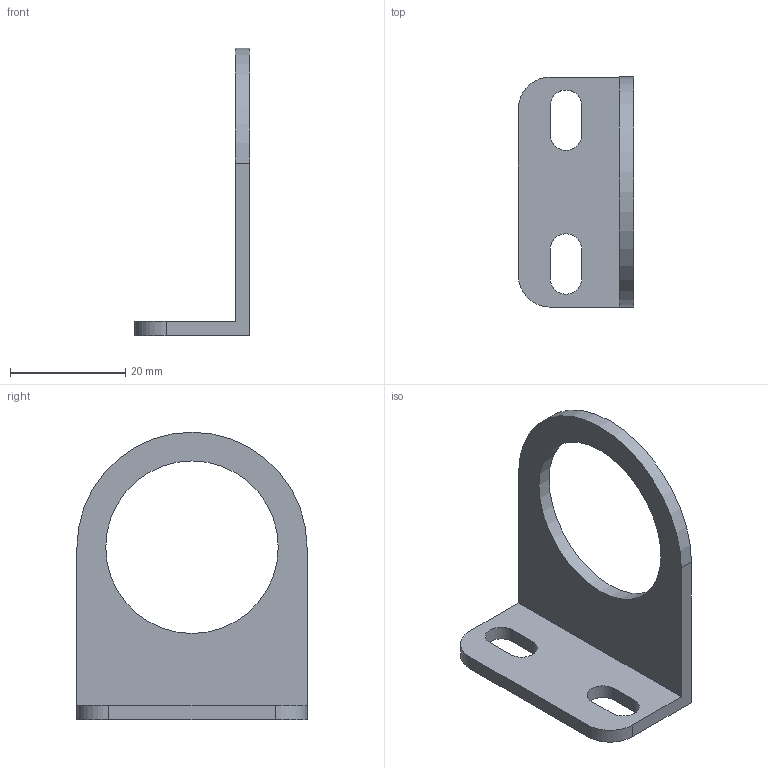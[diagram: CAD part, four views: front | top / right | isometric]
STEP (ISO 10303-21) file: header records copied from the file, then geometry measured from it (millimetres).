
FILE_DESCRIPTION( ( 'STEP AP203' ), '1' );
FILE_NAME( 'p:/temp/worker_201/temp/exporttempdir_5636_219_EObn3/format_0/17150.stp', '2021-02-05T12:34:05', ( 'License CC BY-ND 4.0' ), ( 'CADENAS' ), ' ', 'PARTsolutions', ' ' );
FILE_SCHEMA( ( 'CONFIG_CONTROL_DESIGN' ) );
Length unit declared in the file: millimetre
Products named in the file (1): _17150
Bounding box: 20 x 40 x 50 mm (x, y, z)
Volume: 4264.9 mm3; surface area: 4266.7 mm2
Topology: 1 solids, 1 shells, 19 faces, 51 edges, 34 vertices
Faces by surface type: plane 11, cylinder 8
Full cylindrical faces by diameter (mm): 30 x1
Entity records: 652 total; most frequent: DIRECTION 106, CARTESIAN_POINT 104, ORIENTED_EDGE 100, EDGE_CURVE 50, AXIS2_PLACEMENT_3D 36, VERTEX_POINT 34, LINE 34, VECTOR 34
